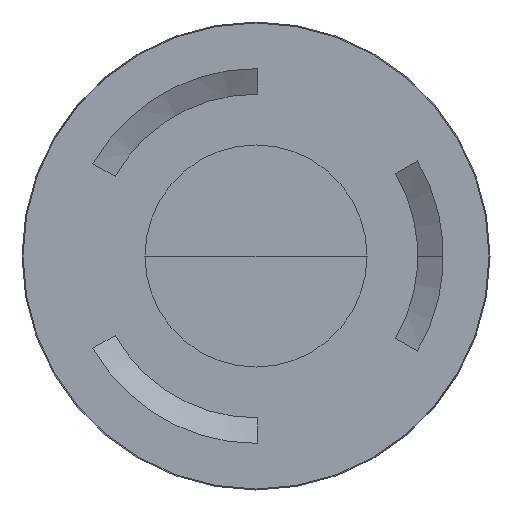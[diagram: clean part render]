
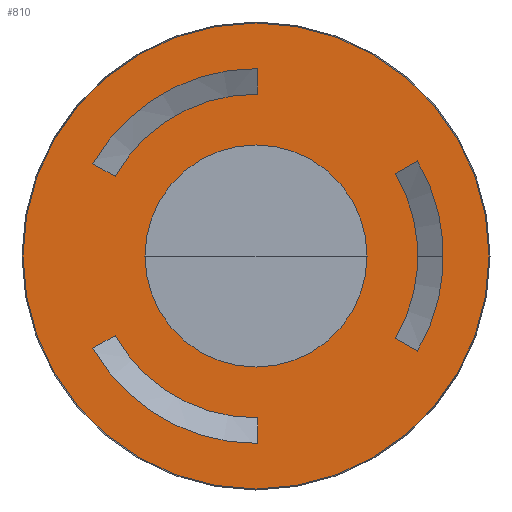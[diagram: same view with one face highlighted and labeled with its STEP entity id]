
A CAD part, front view. The second image highlights one B-rep face of the part: STEP entity #810.
In plain terms, the highlighted planar face has unit normal (0, -1, 0).
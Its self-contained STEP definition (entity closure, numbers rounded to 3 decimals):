
#193=DIRECTION('',(-0.866,0.,-0.5));
#194=VECTOR('',#193,7.092);
#195=CARTESIAN_POINT('',(-39.066,-966.,-22.04));
#196=LINE('',#195,#194);
#197=CARTESIAN_POINT('',(0.,-966.,0.));
#198=DIRECTION('',(0.,-1.,0.));
#199=DIRECTION('',(-0.87,0.,-0.493));
#200=AXIS2_PLACEMENT_3D('',#197,#198,#199);
#202=DIRECTION('',(0.,0.,1.));
#203=VECTOR('',#202,7.092);
#204=CARTESIAN_POINT('',(0.446,-966.,-51.944));
#205=LINE('',#204,#203);
#206=CARTESIAN_POINT('',(0.,-966.,0.));
#207=DIRECTION('',(0.,1.,0.));
#208=DIRECTION('',(0.01,0.,-1.));
#209=AXIS2_PLACEMENT_3D('',#206,#207,#208);
#211=CARTESIAN_POINT('',(0.,-966.,0.));
#212=DIRECTION('',(0.,1.,0.));
#213=DIRECTION('',(0.861,0.,0.509));
#214=AXIS2_PLACEMENT_3D('',#211,#212,#213);
#216=DIRECTION('',(0.866,0.,-0.5));
#217=VECTOR('',#216,7.092);
#218=CARTESIAN_POINT('',(38.62,-966.,-22.812));
#219=LINE('',#218,#217);
#220=CARTESIAN_POINT('',(0.,-966.,0.));
#221=DIRECTION('',(0.,-1.,0.));
#222=DIRECTION('',(0.862,0.,-0.507));
#223=AXIS2_PLACEMENT_3D('',#220,#221,#222);
#225=DIRECTION('',(-0.866,0.,-0.5));
#226=VECTOR('',#225,7.092);
#227=CARTESIAN_POINT('',(44.762,-966.,26.358));
#228=LINE('',#227,#226);
#229=DIRECTION('',(0.866,0.,-0.5));
#230=VECTOR('',#229,7.092);
#231=CARTESIAN_POINT('',(-45.208,-966.,25.586));
#232=LINE('',#231,#230);
#233=CARTESIAN_POINT('',(0.,-966.,0.));
#234=DIRECTION('',(0.,1.,0.));
#235=DIRECTION('',(-0.871,0.,0.491));
#236=AXIS2_PLACEMENT_3D('',#233,#234,#235);
#238=DIRECTION('',(0.,0.,1.));
#239=VECTOR('',#238,7.092);
#240=CARTESIAN_POINT('',(0.446,-966.,44.852));
#241=LINE('',#240,#239);
#242=CARTESIAN_POINT('',(0.,-966.,0.));
#243=DIRECTION('',(0.,-1.,0.));
#244=DIRECTION('',(0.009,0.,1.));
#245=AXIS2_PLACEMENT_3D('',#242,#243,#244);
#247=CARTESIAN_POINT('',(0.,-966.,0.));
#248=DIRECTION('',(0.,1.,0.));
#249=DIRECTION('',(1.,0.,0.));
#250=AXIS2_PLACEMENT_3D('',#247,#248,#249);
#252=CARTESIAN_POINT('',(0.,-966.,0.));
#253=DIRECTION('',(0.,1.,0.));
#254=DIRECTION('',(-1.,0.,0.));
#255=AXIS2_PLACEMENT_3D('',#252,#253,#254);
#257=CARTESIAN_POINT('',(0.,-966.,0.));
#258=DIRECTION('',(0.,1.,0.));
#259=DIRECTION('',(1.,0.,0.));
#260=AXIS2_PLACEMENT_3D('',#257,#258,#259);
#262=CARTESIAN_POINT('',(0.,-966.,0.));
#263=DIRECTION('',(0.,1.,0.));
#264=DIRECTION('',(-1.,0.,0.));
#265=AXIS2_PLACEMENT_3D('',#262,#263,#264);
#445=CARTESIAN_POINT('',(64.586,-966.,0.));
#446=CARTESIAN_POINT('',(-64.586,-966.,0.));
#447=VERTEX_POINT('',#445);
#448=VERTEX_POINT('',#446);
#449=CARTESIAN_POINT('',(30.784,-966.,0.));
#450=CARTESIAN_POINT('',(-30.784,-966.,0.));
#451=VERTEX_POINT('',#449);
#452=VERTEX_POINT('',#450);
#453=CARTESIAN_POINT('',(-39.066,-966.,22.04));
#454=CARTESIAN_POINT('',(-45.208,-966.,25.586));
#455=VERTEX_POINT('',#453);
#456=VERTEX_POINT('',#454);
#457=CARTESIAN_POINT('',(0.446,-966.,51.944));
#458=VERTEX_POINT('',#457);
#459=CARTESIAN_POINT('',(0.446,-966.,44.852));
#460=VERTEX_POINT('',#459);
#461=CARTESIAN_POINT('',(38.62,-966.,-22.812));
#462=CARTESIAN_POINT('',(38.62,-966.,22.812));
#463=VERTEX_POINT('',#461);
#464=VERTEX_POINT('',#462);
#465=CARTESIAN_POINT('',(44.762,-966.,26.358));
#466=VERTEX_POINT('',#465);
#467=CARTESIAN_POINT('',(44.762,-966.,-26.358));
#468=VERTEX_POINT('',#467);
#469=CARTESIAN_POINT('',(-45.208,-966.,-25.586));
#470=CARTESIAN_POINT('',(-39.066,-966.,-22.04));
#471=VERTEX_POINT('',#469);
#472=VERTEX_POINT('',#470);
#473=CARTESIAN_POINT('',(0.446,-966.,-44.852));
#474=VERTEX_POINT('',#473);
#475=CARTESIAN_POINT('',(0.446,-966.,-51.944));
#476=VERTEX_POINT('',#475);
#763=CARTESIAN_POINT('',(0.,-966.,0.));
#764=DIRECTION('',(0.,1.,0.));
#765=DIRECTION('',(1.,0.,0.));
#766=AXIS2_PLACEMENT_3D('',#763,#764,#765);
#767=PLANE('',#766);
#769=ORIENTED_EDGE('',*,*,#768,.T.);
#771=ORIENTED_EDGE('',*,*,#770,.T.);
#772=EDGE_LOOP('',(#769,#771));
#773=FACE_OUTER_BOUND('',#772,.F.);
#775=ORIENTED_EDGE('',*,*,#774,.T.);
#777=ORIENTED_EDGE('',*,*,#776,.T.);
#779=ORIENTED_EDGE('',*,*,#778,.T.);
#781=ORIENTED_EDGE('',*,*,#780,.T.);
#782=EDGE_LOOP('',(#775,#777,#779,#781));
#783=FACE_BOUND('',#782,.F.);
#785=ORIENTED_EDGE('',*,*,#784,.T.);
#787=ORIENTED_EDGE('',*,*,#786,.T.);
#789=ORIENTED_EDGE('',*,*,#788,.T.);
#791=ORIENTED_EDGE('',*,*,#790,.T.);
#792=EDGE_LOOP('',(#785,#787,#789,#791));
#793=FACE_BOUND('',#792,.F.);
#795=ORIENTED_EDGE('',*,*,#794,.F.);
#797=ORIENTED_EDGE('',*,*,#796,.F.);
#798=EDGE_LOOP('',(#795,#797));
#799=FACE_BOUND('',#798,.F.);
#801=ORIENTED_EDGE('',*,*,#800,.T.);
#803=ORIENTED_EDGE('',*,*,#802,.T.);
#805=ORIENTED_EDGE('',*,*,#804,.T.);
#807=ORIENTED_EDGE('',*,*,#806,.T.);
#808=EDGE_LOOP('',(#801,#803,#805,#807));
#809=FACE_BOUND('',#808,.F.);
#810=ADVANCED_FACE('',(#773,#783,#793,#799,#809),#767,.F.);
#201=CIRCLE('',#200,51.946);
#210=CIRCLE('',#209,44.854);
#215=CIRCLE('',#214,44.854);
#224=CIRCLE('',#223,51.946);
#237=CIRCLE('',#236,44.854);
#246=CIRCLE('',#245,51.946);
#251=CIRCLE('',#250,30.784);
#256=CIRCLE('',#255,30.784);
#261=CIRCLE('',#260,64.586);
#266=CIRCLE('',#265,64.586);
#768=EDGE_CURVE('',#447,#448,#261,.T.);
#770=EDGE_CURVE('',#448,#447,#266,.T.);
#774=EDGE_CURVE('',#464,#463,#215,.T.);
#776=EDGE_CURVE('',#463,#468,#219,.T.);
#778=EDGE_CURVE('',#468,#466,#224,.T.);
#780=EDGE_CURVE('',#466,#464,#228,.T.);
#784=EDGE_CURVE('',#456,#455,#232,.T.);
#786=EDGE_CURVE('',#455,#460,#237,.T.);
#788=EDGE_CURVE('',#460,#458,#241,.T.);
#790=EDGE_CURVE('',#458,#456,#246,.T.);
#794=EDGE_CURVE('',#451,#452,#251,.T.);
#796=EDGE_CURVE('',#452,#451,#256,.T.);
#800=EDGE_CURVE('',#472,#471,#196,.T.);
#802=EDGE_CURVE('',#471,#476,#201,.T.);
#804=EDGE_CURVE('',#476,#474,#205,.T.);
#806=EDGE_CURVE('',#474,#472,#210,.T.);
